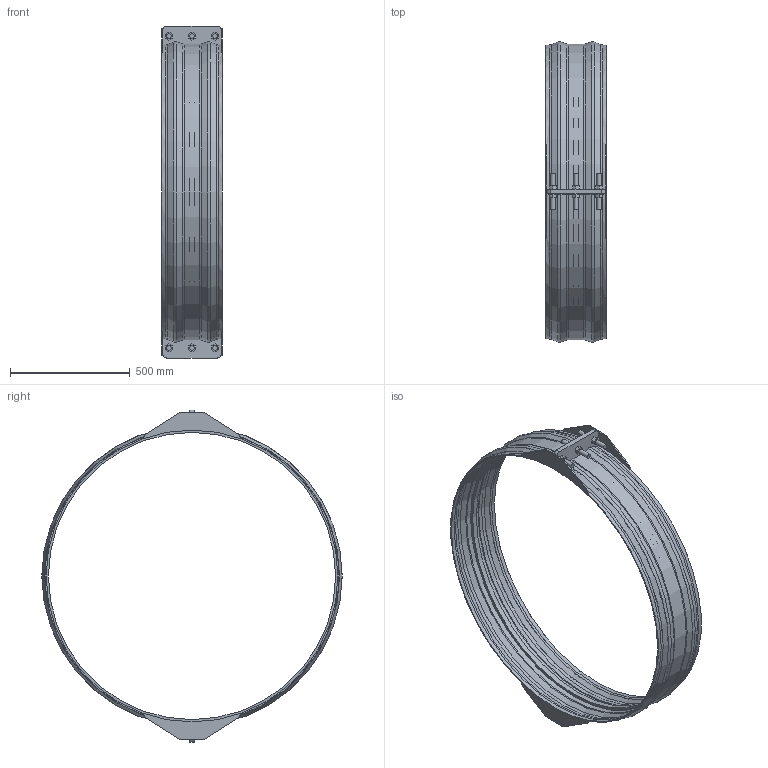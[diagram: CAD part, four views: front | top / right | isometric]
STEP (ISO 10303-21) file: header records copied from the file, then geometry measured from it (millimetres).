
FILE_DESCRIPTION(/* description */ ('VIC SS NON RESTRAINED COUPLING STYLE 229S (FLEX) (BEF)','CAx-IF Rec.Pracs.---Representation and Presentation of Product Manufacturing Information (PMI)---4.0---2014-10-13'),/* implementation_level */ '2;1');
FILE_NAME(/* name */ 'C:\Users\Vjadhav\Desktop\CAD for Inventor\1\229S\STEP\Victaulic_VBSP_Coupling Flexible Non-Restrained_Style 229S (BEF)\Victaulic_VBSP_Coupling Flexible Non-Restrained_Style 229S (BEF)_48 (1200).stp',/* time_stamp */ '2021-08-26T18:17:28+06:00',/* author */ ('Vjadhav'),/* organization */ ('Victaulic'),/* preprocessor_version */ 'ST-DEVELOPER v17.2',/* originating_system */ 'Autodesk Inventor 2019',/* authorisation */ '');
FILE_SCHEMA (('AP242_MANAGED_MODEL_BASED_3D_ENGINEERING_MIM_LF { 1 0 10303 442 1 1 4 }'));
Length unit declared in the file: inch
Products named in the file (1): 229S-48.0
Bounding box: 254 x 1255.41 x 1387.47 mm (x, y, z)
Volume: 7226316.5 mm3; surface area: 2429856 mm2
Topology: 1 solids, 1 shells, 203 faces, 541 edges, 366 vertices
Faces by surface type: plane 130, cylinder 43, torus 18, cone 12
Full cylindrical faces by diameter (mm): 19.05 x12, 1200.15 x1, 1219.2 x2, 1225.55 x2
Entity records: 6856 total; most frequent: CARTESIAN_POINT 1320, DIRECTION 1103, ORIENTED_EDGE 1082, EDGE_CURVE 541, AXIS2_PLACEMENT_3D 369, VERTEX_POINT 366, LINE 365, VECTOR 365
